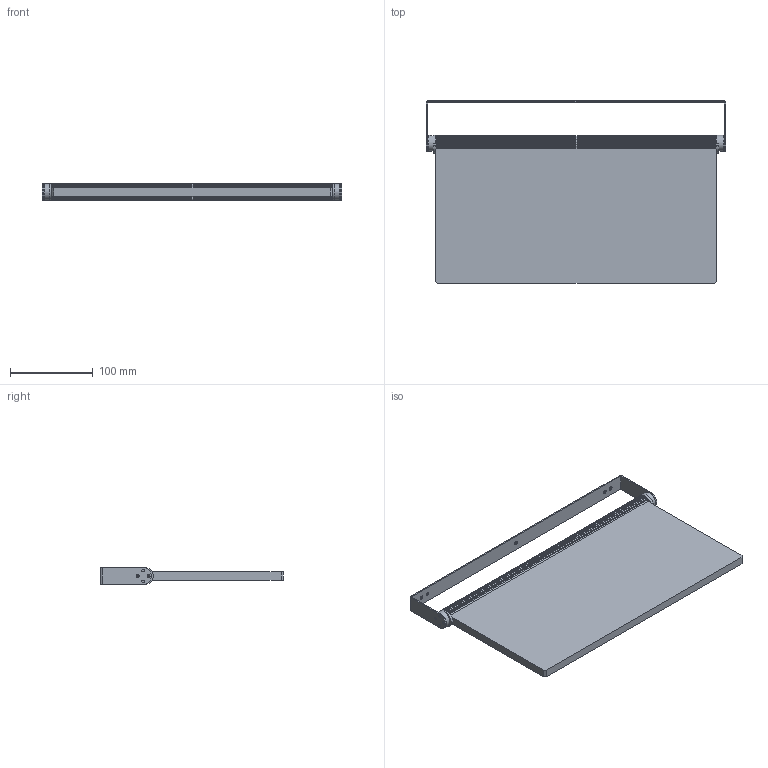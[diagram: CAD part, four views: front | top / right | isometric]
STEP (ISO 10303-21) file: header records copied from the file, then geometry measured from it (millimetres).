
FILE_DESCRIPTION(/* description */ (''),/* implementation_level */ '2;1');
FILE_NAME(/* name */ 'C:/Users/elena/Desktop/Floks.step',/* time_stamp */ '2020-07-15T14:42:17+02:00',/* author */ (''),/* organization */ (''),/* preprocessor_version */ 'ST-DEVELOPER v18.1',/* originating_system */ 'Autodesk Translation Framework v9.3.0.1241',/* authorisation */ '');
FILE_SCHEMA (('AUTOMOTIVE_DESIGN { 1 0 10303 214 3 1 1 }'));
Length unit declared in the file: millimetre
Products named in the file (1): (Unsaved)
Bounding box: 362 x 220.91 x 19.8 mm (x, y, z)
Volume: 657003.1 mm3; surface area: 162637.8 mm2
Topology: 2 solids, 6 shells, 183 faces, 490 edges, 318 vertices
Faces by surface type: cylinder 98, plane 77, bspline 4, cone 4
Full cylindrical faces by diameter (mm): 2.5 x4, 3 x6, 3.25 x8, 3.5 x1, 4 x2, 4.5 x3, 19.8 x2
Entity records: 5943 total; most frequent: DIRECTION 1092, CARTESIAN_POINT 1050, ORIENTED_EDGE 980, EDGE_CURVE 490, AXIS2_PLACEMENT_3D 428, VERTEX_POINT 318, CIRCLE 244, LINE 236
